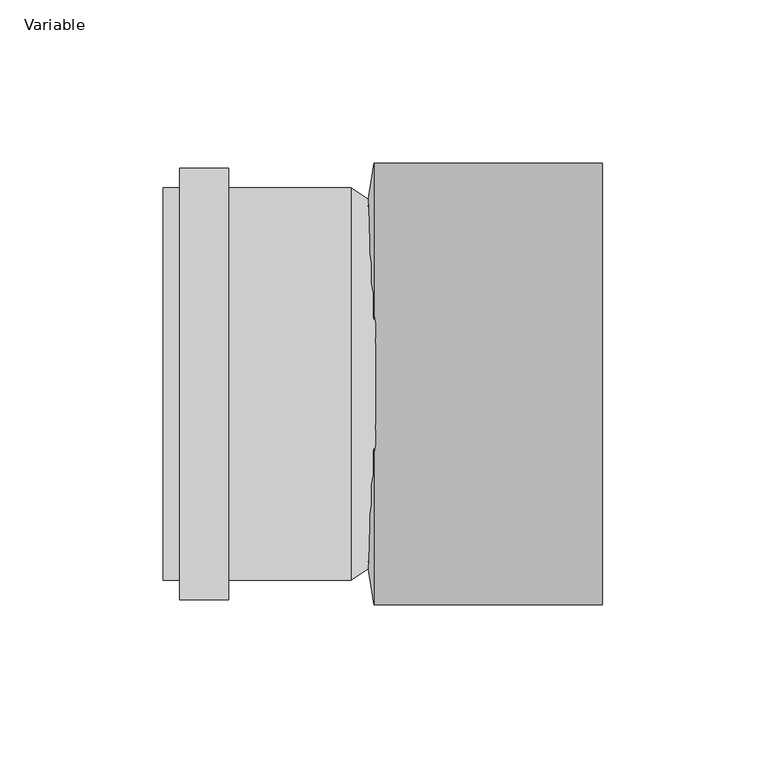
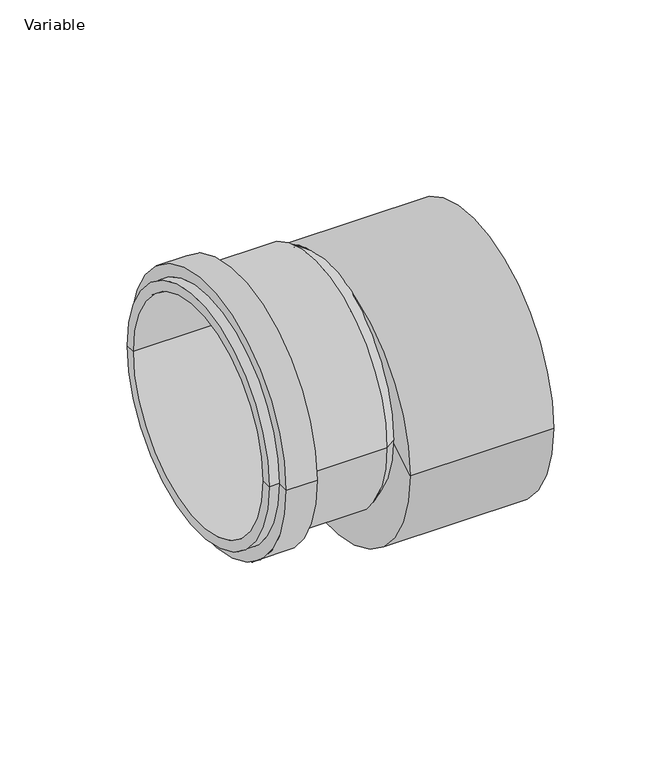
"""IFC4 building model written with IfcOpenShell, lengths in millimetres: pipe fitting geometry, AliaxisFR_Friaphon_Reducer_FR : Variable."""

from ifc_helpers import new_model, si_unit, point, frame, frame_2d, origin, origin_2d, place, context, project, spatial, polyline, circle_curve, trimmed, segment, composite_curve, outline, extrude, source, transform, mapped, element, save
from ifc_brep_helpers import plane_surface, cylinder_surface, revolved_surface, spline_surface, advanced_brep


def variable_6d194c15(model_context):
    return source(origin(), model_context, "Body", "SolidModel", [
        advanced_brep(
        [(-97.25, -60.0, 0.0), (-97.25, 60.0, 0.0), (-97.25, 55.0, 0.0), (-97.25, -55.0, 0.0), (-77.25, -66.0, 0.0), (-77.25, 66.0, 0.0), (-92.25, 66.0, 0.0), (-92.25, -66.0, 0.0), (-77.25, -60.0, 0.0), (-77.25, 60.0, 0.0), (-39.75, -60.0, 0.0), (-39.75, 60.0, 0.0), (-32.25, 55.0, 0.0), (-32.25, -55.0, 0.0), (-92.25, -60.0, 0.0), (-92.25, 60.0, 0.0)],
        [
            (0, 1, circle_curve(frame((-97.25, 0.0, 0.0), z_axis=(-1.0, 0.0, 0.0), x_axis=(0.0, 1.0, 0.0)), 60.0)),
            (1, 2),
            (2, 3, circle_curve(frame((-97.25, 0.0, 0.0), z_axis=(1.0, 0.0, 0.0), x_axis=(0.0, 1.0, 0.0)), 55.0)),
            (3, 0),
            (1, 0, circle_curve(frame((-97.25, 0.0, 0.0), z_axis=(-1.0, 0.0, 0.0), x_axis=(0.0, 1.0, 0.0)), 60.0)),
            (3, 2, circle_curve(frame((-97.25, 0.0, 0.0), z_axis=(1.0, 0.0, 0.0), x_axis=(0.0, 1.0, 0.0)), 55.0)),
            (4, 5, circle_curve(frame((-77.25, 0.0, 0.0), z_axis=(-1.0, 0.0, 0.0), x_axis=(0.0, 1.0, 0.0)), 66.0)),
            (5, 6),
            (6, 7, circle_curve(frame((-92.25, 0.0, 0.0), z_axis=(1.0, 0.0, 0.0), x_axis=(0.0, 1.0, 0.0)), 66.0)),
            (7, 4),
            (5, 4, circle_curve(frame((-77.25, 0.0, 0.0), z_axis=(-1.0, 0.0, 0.0), x_axis=(0.0, 1.0, 0.0)), 66.0)),
            (7, 6, circle_curve(frame((-92.25, 0.0, 0.0), z_axis=(1.0, 0.0, 0.0), x_axis=(0.0, 1.0, 0.0)), 66.0)),
            (8, 9, circle_curve(frame((-77.25, 0.0, 0.0), z_axis=(-1.0, 0.0, 0.0), x_axis=(0.0, 1.0, 0.0)), 60.0)),
            (9, 5),
            (4, 8),
            (9, 8, circle_curve(frame((-77.25, 0.0, 0.0), z_axis=(-1.0, 0.0, 0.0), x_axis=(0.0, 1.0, 0.0)), 60.0)),
            (10, 11, circle_curve(frame((-39.75, 0.0, 0.0), z_axis=(-1.0, 0.0, 0.0), x_axis=(0.0, 1.0, 0.0)), 60.0)),
            (11, 9),
            (8, 10),
            (11, 10, circle_curve(frame((-39.75, 0.0, 0.0), z_axis=(-1.0, 0.0, 0.0), x_axis=(0.0, 1.0, 0.0)), 60.0)),
            (2, 12),
            (12, 13, circle_curve(frame((-32.25, 0.0, 0.0), z_axis=(1.0, 0.0, 0.0), x_axis=(0.0, 1.0, 0.0)), 55.0)),
            (13, 3),
            (13, 12, circle_curve(frame((-32.25, 0.0, 0.0), z_axis=(1.0, 0.0, 0.0), x_axis=(0.0, 1.0, 0.0)), 55.0)),
            (12, 11),
            (10, 13),
            (14, 15, circle_curve(frame((-92.25, 0.0, 0.0), z_axis=(-1.0, 0.0, 0.0), x_axis=(0.0, 1.0, 0.0)), 60.0)),
            (15, 1),
            (0, 14),
            (15, 14, circle_curve(frame((-92.25, 0.0, 0.0), z_axis=(-1.0, 0.0, 0.0), x_axis=(0.0, 1.0, 0.0)), 60.0)),
            (6, 15),
            (14, 7),
        ],
        [
            plane_surface(frame((-97.25, 0.0, 0.0), z_axis=(-1.0, 0.0, 0.0), x_axis=(0.0, 1.0, 0.0))),
            cylinder_surface(frame((-32.25, 0.0, 0.0), z_axis=(1.0, 0.0, 0.0), x_axis=(0.0, 1.0, 0.0)), 66.0),
            plane_surface(frame((-77.25, 0.0, 0.0), z_axis=(1.0, 0.0, 0.0), x_axis=(0.0, 1.0, 0.0))),
            cylinder_surface(frame((-32.25, 0.0, 0.0), z_axis=(1.0, 0.0, 0.0), x_axis=(0.0, 1.0, 0.0)), 60.0),
            revolved_surface(polyline([(-32.25, 55.0, 0.0), (-97.25, 55.0, 0.0)]), (-32.25, 0.0, 0.0), (1.0, 0.0, 0.0)),
            revolved_surface(polyline([(-39.75, 60.0, 0.0), (-32.25, 55.0, 0.0)]), (-32.25, 0.0, 0.0), (1.0, 0.0, 0.0)),
            plane_surface(frame((-92.25, 0.0, 0.0), z_axis=(-1.0, 0.0, 0.0), x_axis=(0.0, 1.0, 0.0))),
        ],
        [
            (0, [[1, 2, 3, 4]]),
            (0, [[5, -4, 6, -2]]),
            (1, [[7, 8, 9, 10]]),
            (1, [[11, -10, 12, -8]]),
            (2, [[13, 14, -7, 15]]),
            (2, [[16, -15, -11, -14]]),
            (3, [[17, 18, -13, 19]]),
            (3, [[20, -19, -16, -18]]),
            (4, [[-3, 21, 22, 23]]),
            (4, [[-6, -23, 24, -21]]),
            (5, [[-22, 25, -17, 26]]),
            (5, [[-24, -26, -20, -25]]),
            (3, [[27, 28, -1, 29]]),
            (3, [[30, -29, -5, -28]]),
            (6, [[-9, 31, -27, 32]]),
            (6, [[-12, -32, -30, -31]]),
        ],
    ),
        extrude(outline(composite_curve([segment(trimmed(circle_curve(origin_2d(), 55.0), [point((-55.0, 0.0))], [point((55.0, 0.0))], False, "CARTESIAN"), True, "CONTINUOUS"), segment(trimmed(circle_curve(origin_2d(), 55.0), [point((55.0, 0.0))], [point((-55.0, 0.0))], False, "CARTESIAN"), True, "CONTINUOUS")], self_intersect=False)), frame((-37.25, 0.0, 0.0), z_axis=(1.0, 0.0, 0.0), x_axis=(0.0, 1.0, 0.0)), (0.0, 0.0, 1.0), 2.5),
        advanced_brep(
        [(-34.75, -55.0, 0.0), (-34.75, 55.0, 0.0), (-32.75, -67.5, -12.5), (-32.75, 67.5, -12.5)],
        [
            (0, 1, circle_curve(frame((-34.75, 0.0, 0.0), z_axis=(-1.0, 0.0, 0.0), x_axis=(0.0, 1.0, 0.0)), 55.0)),
            (1, 0, circle_curve(frame((-34.75, 0.0, 0.0), z_axis=(-1.0, 0.0, 0.0), x_axis=(0.0, 1.0, 0.0)), 55.0)),
            (2, 3, circle_curve(frame((-32.75, 0.0, -12.5), z_axis=(1.0, 0.0, 0.0), x_axis=(0.0, 1.0, 0.0)), 67.5)),
            (3, 2, circle_curve(frame((-32.75, 0.0, -12.5), z_axis=(1.0, 0.0, 0.0), x_axis=(0.0, 1.0, 0.0)), 67.5)),
            (3, 1),
            (0, 2),
        ],
        [
            plane_surface(frame((-34.75, 0.0, 0.0), z_axis=(-1.0, 0.0, 0.0), x_axis=(0.0, 0.0, 1.0))),
            plane_surface(frame((-32.75, 0.0, -12.5), z_axis=(1.0, 0.0, 0.0), x_axis=(0.0, 0.0, 1.0))),
            spline_surface(2, 1, [[(-32.75, -67.5, -12.5), (-34.75, -55.0, 0.0)], [(-32.75, -67.5, 55.0), (-34.75, -55.0, 55.0)], [(-32.75, 0.0, 55.0), (-34.75, 0.0, 55.0)], [(-32.75, 67.5, 55.0), (-34.75, 55.0, 55.0)], [(-32.75, 67.5, -12.5), (-34.75, 55.0, 0.0)]], [3, 2, 3], [2, 2], [0.0, 1.0, 2.0], [0.0, 1.0], weights=[[1.0, 1.0], [0.7071067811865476, 0.7071067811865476], [1.0, 1.0], [0.7071067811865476, 0.7071067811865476], [1.0, 1.0]]),
            spline_surface(2, 1, [[(-32.75, 67.5, -12.5), (-34.75, 55.0, 0.0)], [(-32.75, 67.5, -80.0), (-34.75, 55.0, -55.0)], [(-32.75, 0.0, -80.0), (-34.75, 0.0, -55.0)], [(-32.75, -67.5, -80.0), (-34.75, -55.0, -55.0)], [(-32.75, -67.5, -12.5), (-34.75, -55.0, 0.0)]], [3, 2, 3], [2, 2], [0.0, 1.0, 2.0], [0.0, 1.0], weights=[[1.0, 1.0], [0.7071067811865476, 0.7071067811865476], [1.0, 1.0], [0.7071067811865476, 0.7071067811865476], [1.0, 1.0]]),
        ],
        [
            (0, [[1, 2]]),
            (1, [[3, 4]]),
            (2, [[-4, 5, -1, 6]]),
            (3, [[-3, -6, -2, -5]]),
        ],
    ),
        extrude(outline(composite_curve([segment(trimmed(circle_curve(frame_2d((0.0, -12.5)), 67.5), [point((-67.5, -12.5))], [point((67.5, -12.5))], False, "CARTESIAN"), True, "CONTINUOUS"), segment(trimmed(circle_curve(frame_2d((0.0, -12.5)), 67.5), [point((67.5, -12.5))], [point((-67.5, -12.5))], False, "CARTESIAN"), True, "CONTINUOUS")], self_intersect=False)), frame((-32.75, 0.0, 0.0), z_axis=(1.0, 0.0, 0.0), x_axis=(0.0, 1.0, 0.0)), (0.0, 0.0, 1.0), 70.0),
    ])


if __name__ == "__main__":
    model = new_model("IFC4")
    model_context = context("Model", 3, world=origin())
    ifc_project = project(units=[si_unit("LENGTHUNIT", "METRE", prefix="MILLI")], contexts=[model_context])
    site = spatial("IfcSite", under=ifc_project)
    building = spatial("IfcBuilding", under=site)
    placement = place(None, origin())
    variable_shape = variable_6d194c15(model_context)
    element("IfcPipeFitting", 1, ObjectType="AliaxisFR_Friaphon_Reducer_FR : Variable", at=placement, inside=building, context=model_context, shape_type="MappedRepresentation", body=[
        mapped(variable_shape, transform((0.0, 0.0, 0.0), x_axis=(1.0, 0.0, 0.0), y_axis=(0.0, 1.0, 0.0), z_axis=(0.0, 0.0, 1.0))),
    ])
    save(model, "model.ifc")
